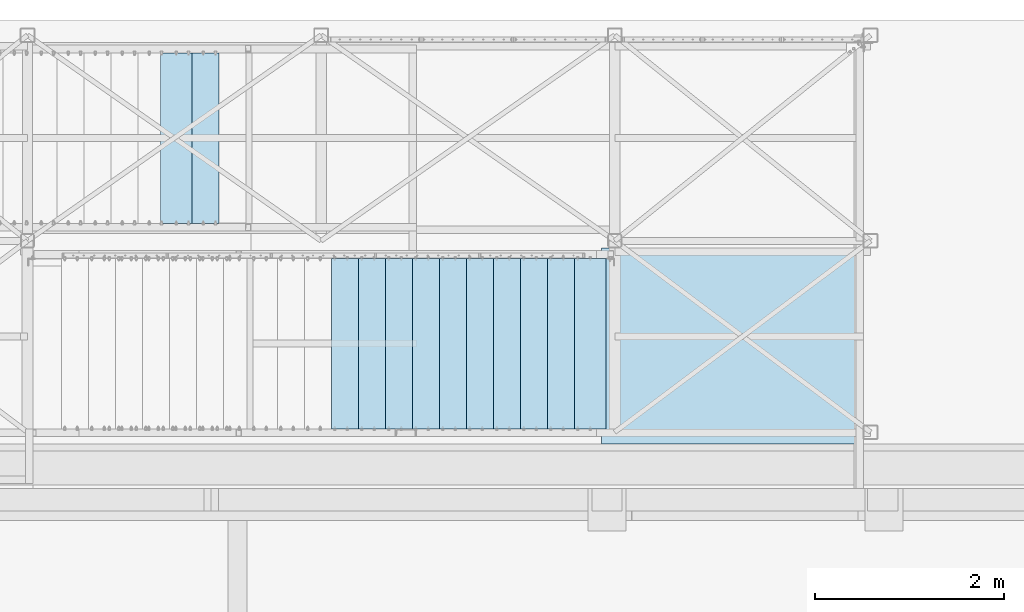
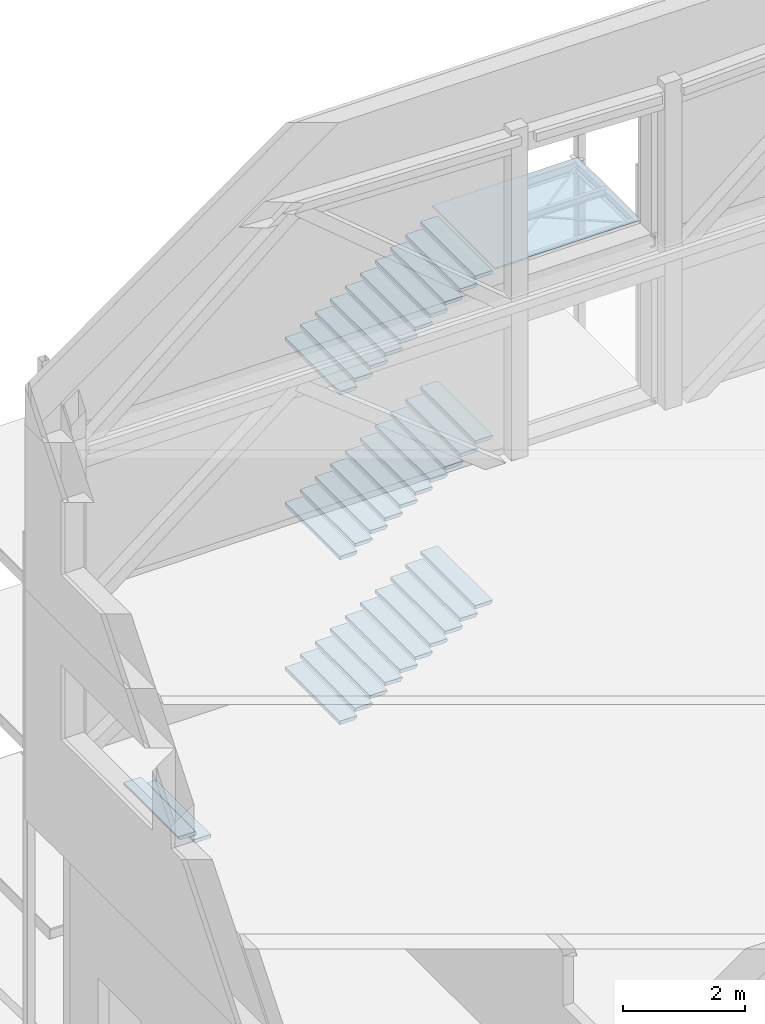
# One storey, part 61 of 78: 33 plates, 33 elements without a shape of their own.
"""IFC2X3 building model written with IfcOpenShell, lengths in millimetres."""

from ifc_helpers import new_model, si_unit, frame, origin_with_axes, place, context, subcontext, project, spatial, polyline, outline, extrude, material, type_object, element, aggregate, save


model = new_model("IFC2X3")

# Units and contexts
model_context = context("Model", 3, precision=1e-05, world=origin_with_axes())
body_context = subcontext(model_context, "Body", "Model", "MODEL_VIEW")
ifc_project = project(units=[si_unit("LENGTHUNIT", "METRE", prefix="MILLI"), si_unit("AREAUNIT", "SQUARE_METRE"), si_unit("VOLUMEUNIT", "CUBIC_METRE"), si_unit("MASSUNIT", "GRAM", prefix="KILO"), si_unit("TIMEUNIT", "SECOND"), si_unit("PLANEANGLEUNIT", "RADIAN"), si_unit("SOLIDANGLEUNIT", "STERADIAN"), si_unit("THERMODYNAMICTEMPERATUREUNIT", "DEGREE_CELSIUS"), si_unit("LUMINOUSINTENSITYUNIT", "LUMEN")], contexts=[model_context])

# Site, building, storey
site_placement = place(None, origin_with_axes())
site = spatial("IfcSite", under=ifc_project, at=site_placement, Name="Site", CompositionType="ELEMENT")
building_placement = place(site_placement, origin_with_axes())
building = spatial("IfcBuilding", under=site, at=building_placement, Name="Undefined", CompositionType="ELEMENT")
storey_placement = place(building_placement, origin_with_axes())
storey = spatial("IfcBuildingStorey", under=building, at=storey_placement, Name="Undefined", CompositionType="ELEMENT", Elevation=0.0)

# Assembly, plate
assembly_1_placement = place(storey_placement, origin_with_axes())
assembly_1 = element("IfcElementAssembly", 1, at=assembly_1_placement, inside=storey, Name="MARCHE", AssemblyPlace="NOTDEFINED", PredefinedType="RIGID_FRAME")
ifc_material = material(Name="STEEL/S235JR")
plate_type_1 = type_object("IfcPlateType", Name="PL1800*70", PredefinedType="NOTDEFINED")
plate_1_placement = place(assembly_1_placement, frame((1403.57000005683, 29663.0000000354, 153242.539999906), z_axis=(0.0, -1.0, 0.0), x_axis=(-1.0, 0.0, 0.0)))
plate_1 = element("IfcPlate", 2, at=plate_1_placement, type_object=plate_type_1, material=ifc_material, Name="MARCHE", ObjectType="PL1800*70", context=body_context, shape_type="SweptSolid", body=[
    extrude(outline(polyline([(0.0, 0.0), (330.0, 0.0), (330.0, 70.0), (40.0, 70.0), (0.0, 40.0), (0.0, 0.0)])), frame((0.0, 0.0, -900.0), z_axis=(0.0, 0.0, 1.0), x_axis=(1.0, 0.0, 0.0)), (0.0, 0.0, 1.0), 1800.0),
])
aggregate(assembly_1, [plate_1])

assembly_2_placement = place(storey_placement, origin_with_axes())
assembly_2 = element("IfcElementAssembly", 3, at=assembly_2_placement, inside=storey, Name="MARCHE", AssemblyPlace="NOTDEFINED", PredefinedType="RIGID_FRAME")
plate_2_placement = place(assembly_2_placement, frame((1118.57000005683, 29663.0000000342, 153085.039999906), z_axis=(0.0, -1.0, 0.0), x_axis=(-1.0, 0.0, 0.0)))
plate_2 = element("IfcPlate", 4, at=plate_2_placement, type_object=plate_type_1, material=ifc_material, Name="MARCHE", ObjectType="PL1800*70", context=body_context, shape_type="SweptSolid", body=[
    extrude(outline(polyline([(0.0, 0.0), (330.0, 0.0), (330.0, 70.0), (40.0, 70.0), (0.0, 40.0), (0.0, 0.0)])), frame((0.0, 0.0, -900.0), z_axis=(0.0, 0.0, 1.0), x_axis=(1.0, 0.0, 0.0)), (0.0, 0.0, 1.0), 1800.0),
])
aggregate(assembly_2, [plate_2])

assembly_3_placement = place(storey_placement, origin_with_axes())
assembly_3 = element("IfcElementAssembly", 5, at=assembly_3_placement, inside=storey, Name="MARCHE", AssemblyPlace="NOTDEFINED", PredefinedType="RIGID_FRAME")
plate_3_placement = place(assembly_3_placement, frame((833.570000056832, 29663.0000000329, 152927.539999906), z_axis=(0.0, -1.0, 0.0), x_axis=(-1.0, 0.0, 0.0)))
plate_3 = element("IfcPlate", 6, at=plate_3_placement, type_object=plate_type_1, material=ifc_material, Name="MARCHE", ObjectType="PL1800*70", context=body_context, shape_type="SweptSolid", body=[
    extrude(outline(polyline([(0.0, 0.0), (330.0, 0.0), (330.0, 70.0), (40.0, 70.0), (0.0, 40.0), (0.0, 0.0)])), frame((0.0, 0.0, -900.0), z_axis=(0.0, 0.0, 1.0), x_axis=(1.0, 0.0, 0.0)), (0.0, 0.0, 1.0), 1800.0),
])
aggregate(assembly_3, [plate_3])

assembly_4_placement = place(storey_placement, origin_with_axes())
assembly_4 = element("IfcElementAssembly", 7, at=assembly_4_placement, inside=storey, Name="MARCHE", AssemblyPlace="NOTDEFINED", PredefinedType="RIGID_FRAME")
plate_4_placement = place(assembly_4_placement, frame((548.570000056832, 29663.0000000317, 152770.039999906), z_axis=(0.0, -1.0, 0.0), x_axis=(-1.0, 0.0, 0.0)))
plate_4 = element("IfcPlate", 8, at=plate_4_placement, type_object=plate_type_1, material=ifc_material, Name="MARCHE", ObjectType="PL1800*70", context=body_context, shape_type="SweptSolid", body=[
    extrude(outline(polyline([(0.0, 0.0), (330.0, 0.0), (330.0, 70.0), (40.0, 70.0), (0.0, 40.0), (0.0, 0.0)])), frame((0.0, 0.0, -900.0), z_axis=(0.0, 0.0, 1.0), x_axis=(1.0, 0.0, 0.0)), (0.0, 0.0, 1.0), 1800.0),
])
aggregate(assembly_4, [plate_4])

assembly_5_placement = place(storey_placement, origin_with_axes())
assembly_5 = element("IfcElementAssembly", 9, at=assembly_5_placement, inside=storey, Name="MARCHE", AssemblyPlace="NOTDEFINED", PredefinedType="RIGID_FRAME")
plate_5_placement = place(assembly_5_placement, frame((263.570000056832, 29663.0000000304, 152612.539999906), z_axis=(0.0, -1.0, 0.0), x_axis=(-1.0, 0.0, 0.0)))
plate_5 = element("IfcPlate", 10, at=plate_5_placement, type_object=plate_type_1, material=ifc_material, Name="MARCHE", ObjectType="PL1800*70", context=body_context, shape_type="SweptSolid", body=[
    extrude(outline(polyline([(0.0, 0.0), (330.0, 0.0), (330.0, 70.0), (40.0, 70.0), (0.0, 40.0), (0.0, 0.0)])), frame((0.0, 0.0, -900.0), z_axis=(0.0, 0.0, 1.0), x_axis=(1.0, 0.0, 0.0)), (0.0, 0.0, 1.0), 1800.0),
])
aggregate(assembly_5, [plate_5])

assembly_6_placement = place(storey_placement, origin_with_axes())
assembly_6 = element("IfcElementAssembly", 11, at=assembly_6_placement, inside=storey, Name="MARCHE", AssemblyPlace="NOTDEFINED", PredefinedType="RIGID_FRAME")
plate_6_placement = place(assembly_6_placement, frame((-21.4299999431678, 29663.0000000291, 152455.039999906), z_axis=(0.0, -1.0, 0.0), x_axis=(-1.0, 0.0, 0.0)))
plate_6 = element("IfcPlate", 12, at=plate_6_placement, type_object=plate_type_1, material=ifc_material, Name="MARCHE", ObjectType="PL1800*70", context=body_context, shape_type="SweptSolid", body=[
    extrude(outline(polyline([(0.0, 0.0), (330.0, 0.0), (330.0, 70.0), (40.0, 70.0), (0.0, 40.0), (0.0, 0.0)])), frame((0.0, 0.0, -900.0), z_axis=(0.0, 0.0, 1.0), x_axis=(1.0, 0.0, 0.0)), (0.0, 0.0, 1.0), 1800.0),
])
aggregate(assembly_6, [plate_6])

assembly_7_placement = place(storey_placement, origin_with_axes())
assembly_7 = element("IfcElementAssembly", 13, at=assembly_7_placement, inside=storey, Name="MARCHE", AssemblyPlace="NOTDEFINED", PredefinedType="RIGID_FRAME")
plate_7_placement = place(assembly_7_placement, frame((-306.429999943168, 29663.0000000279, 152297.539999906), z_axis=(0.0, -1.0, 0.0), x_axis=(-1.0, 0.0, 0.0)))
plate_7 = element("IfcPlate", 14, at=plate_7_placement, type_object=plate_type_1, material=ifc_material, Name="MARCHE", ObjectType="PL1800*70", context=body_context, shape_type="SweptSolid", body=[
    extrude(outline(polyline([(0.0, 0.0), (330.0, 0.0), (330.0, 70.0), (40.0, 70.0), (0.0, 40.0), (0.0, 0.0)])), frame((0.0, 0.0, -900.0), z_axis=(0.0, 0.0, 1.0), x_axis=(1.0, 0.0, 0.0)), (0.0, 0.0, 1.0), 1800.0),
])
aggregate(assembly_7, [plate_7])

assembly_8_placement = place(storey_placement, origin_with_axes())
assembly_8 = element("IfcElementAssembly", 15, at=assembly_8_placement, inside=storey, Name="MARCHE", AssemblyPlace="NOTDEFINED", PredefinedType="RIGID_FRAME")
plate_8_placement = place(assembly_8_placement, frame((-591.429999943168, 29663.0000000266, 152140.039999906), z_axis=(0.0, -1.0, 0.0), x_axis=(-1.0, 0.0, 0.0)))
plate_8 = element("IfcPlate", 16, at=plate_8_placement, type_object=plate_type_1, material=ifc_material, Name="MARCHE", ObjectType="PL1800*70", context=body_context, shape_type="SweptSolid", body=[
    extrude(outline(polyline([(0.0, 0.0), (330.0, 0.0), (330.0, 70.0), (40.0, 70.0), (0.0, 40.0), (0.0, 0.0)])), frame((0.0, 0.0, -900.0), z_axis=(0.0, 0.0, 1.0), x_axis=(1.0, 0.0, 0.0)), (0.0, 0.0, 1.0), 1800.0),
])
aggregate(assembly_8, [plate_8])

assembly_9_placement = place(storey_placement, origin_with_axes())
assembly_9 = element("IfcElementAssembly", 17, at=assembly_9_placement, inside=storey, Name="MARCHE", AssemblyPlace="NOTDEFINED", PredefinedType="RIGID_FRAME")
plate_9_placement = place(assembly_9_placement, frame((-876.429999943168, 29663.0000000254, 151982.539999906), z_axis=(0.0, -1.0, 0.0), x_axis=(-1.0, 0.0, 0.0)))
plate_9 = element("IfcPlate", 18, at=plate_9_placement, type_object=plate_type_1, material=ifc_material, Name="MARCHE", ObjectType="PL1800*70", context=body_context, shape_type="SweptSolid", body=[
    extrude(outline(polyline([(0.0, 0.0), (330.0, 0.0), (330.0, 70.0), (40.0, 70.0), (0.0, 40.0), (0.0, 0.0)])), frame((0.0, 0.0, -900.0), z_axis=(0.0, 0.0, 1.0), x_axis=(1.0, 0.0, 0.0)), (0.0, 0.0, 1.0), 1800.0),
])
aggregate(assembly_9, [plate_9])

assembly_10_placement = place(storey_placement, origin_with_axes())
assembly_10 = element("IfcElementAssembly", 19, at=assembly_10_placement, inside=storey, Name="MARCHE", AssemblyPlace="NOTDEFINED", PredefinedType="RIGID_FRAME")
plate_10_placement = place(assembly_10_placement, frame((-1161.42999994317, 29663.0000000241, 151825.039999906), z_axis=(0.0, -1.0, 0.0), x_axis=(-1.0, 0.0, 0.0)))
plate_10 = element("IfcPlate", 20, at=plate_10_placement, type_object=plate_type_1, material=ifc_material, Name="MARCHE", ObjectType="PL1800*70", context=body_context, shape_type="SweptSolid", body=[
    extrude(outline(polyline([(0.0, 0.0), (330.0, 0.0), (330.0, 70.0), (40.0, 70.0), (0.0, 40.0), (0.0, 0.0)])), frame((0.0, 0.0, -900.0), z_axis=(0.0, 0.0, 1.0), x_axis=(1.0, 0.0, 0.0)), (0.0, 0.0, 1.0), 1800.0),
])
aggregate(assembly_10, [plate_10])

assembly_11_placement = place(storey_placement, origin_with_axes())
assembly_11 = element("IfcElementAssembly", 21, at=assembly_11_placement, inside=storey, Name="MARCHE", AssemblyPlace="NOTDEFINED", PredefinedType="RIGID_FRAME")
plate_11_placement = place(assembly_11_placement, frame((-3296.43000008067, 31832.9999999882, 148824.040000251), z_axis=(0.0, 1.0, 0.0), x_axis=(1.0, 0.0, 0.0)))
plate_11 = element("IfcPlate", 22, at=plate_11_placement, type_object=plate_type_1, material=ifc_material, Name="MARCHE", ObjectType="PL1800*70", context=body_context, shape_type="SweptSolid", body=[
    extrude(outline(polyline([(0.0, 0.0), (330.0, 0.0), (330.0, 70.0), (40.0, 70.0), (0.0, 40.0), (0.0, 0.0)])), frame((0.0, 0.0, -900.0), z_axis=(0.0, 0.0, 1.0), x_axis=(1.0, 0.0, 0.0)), (0.0, 0.0, 1.0), 1800.0),
])
aggregate(assembly_11, [plate_11])

assembly_12_placement = place(storey_placement, origin_with_axes())
assembly_12 = element("IfcElementAssembly", 23, at=assembly_12_placement, inside=storey, Name="MARCHE", AssemblyPlace="NOTDEFINED", PredefinedType="RIGID_FRAME")
plate_12_placement = place(assembly_12_placement, frame((-3011.43000007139, 31832.9999999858, 148664.540000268), z_axis=(0.0, 1.0, 0.0), x_axis=(1.0, 0.0, 0.0)))
plate_12 = element("IfcPlate", 24, at=plate_12_placement, type_object=plate_type_1, material=ifc_material, Name="MARCHE", ObjectType="PL1800*70", context=body_context, shape_type="SweptSolid", body=[
    extrude(outline(polyline([(0.0, 0.0), (330.0, 0.0), (330.0, 70.0), (40.0, 70.0), (0.0, 40.0), (0.0, 0.0)])), frame((0.0, 0.0, -900.0), z_axis=(0.0, 0.0, 1.0), x_axis=(1.0, 0.0, 0.0)), (0.0, 0.0, 1.0), 1800.0),
])
aggregate(assembly_12, [plate_12])

assembly_13_placement = place(storey_placement, origin_with_axes())
assembly_13 = element("IfcElementAssembly", 25, at=assembly_13_placement, inside=storey, Name="MARCHE", AssemblyPlace="NOTDEFINED", PredefinedType="RIGID_FRAME")
plate_13_placement = place(assembly_13_placement, frame((1403.57000005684, 29663.0000000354, 156542.539999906), z_axis=(0.0, -1.0, 0.0), x_axis=(-1.0, 0.0, 0.0)))
plate_13 = element("IfcPlate", 26, at=plate_13_placement, type_object=plate_type_1, material=ifc_material, Name="MARCHE", ObjectType="PL1800*70", context=body_context, shape_type="SweptSolid", body=[
    extrude(outline(polyline([(0.0, 0.0), (330.0, 0.0), (330.0, 70.0), (40.0, 70.0), (0.0, 40.0), (0.0, 0.0)])), frame((0.0, 0.0, -900.0), z_axis=(0.0, 0.0, 1.0), x_axis=(1.0, 0.0, 0.0)), (0.0, 0.0, 1.0), 1800.0),
])
aggregate(assembly_13, [plate_13])

assembly_14_placement = place(storey_placement, origin_with_axes())
assembly_14 = element("IfcElementAssembly", 27, at=assembly_14_placement, inside=storey, Name="MARCHE", AssemblyPlace="NOTDEFINED", PredefinedType="RIGID_FRAME")
plate_14_placement = place(assembly_14_placement, frame((1118.57000005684, 29663.0000000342, 156385.039999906), z_axis=(0.0, -1.0, 0.0), x_axis=(-1.0, 0.0, 0.0)))
plate_14 = element("IfcPlate", 28, at=plate_14_placement, type_object=plate_type_1, material=ifc_material, Name="MARCHE", ObjectType="PL1800*70", context=body_context, shape_type="SweptSolid", body=[
    extrude(outline(polyline([(0.0, 0.0), (330.0, 0.0), (330.0, 70.0), (40.0, 70.0), (0.0, 40.0), (0.0, 0.0)])), frame((0.0, 0.0, -900.0), z_axis=(0.0, 0.0, 1.0), x_axis=(1.0, 0.0, 0.0)), (0.0, 0.0, 1.0), 1800.0),
])
aggregate(assembly_14, [plate_14])

assembly_15_placement = place(storey_placement, origin_with_axes())
assembly_15 = element("IfcElementAssembly", 29, at=assembly_15_placement, inside=storey, Name="MARCHE", AssemblyPlace="NOTDEFINED", PredefinedType="RIGID_FRAME")
plate_15_placement = place(assembly_15_placement, frame((833.570000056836, 29663.0000000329, 156227.539999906), z_axis=(0.0, -1.0, 0.0), x_axis=(-1.0, 0.0, 0.0)))
plate_15 = element("IfcPlate", 30, at=plate_15_placement, type_object=plate_type_1, material=ifc_material, Name="MARCHE", ObjectType="PL1800*70", context=body_context, shape_type="SweptSolid", body=[
    extrude(outline(polyline([(0.0, 0.0), (330.0, 0.0), (330.0, 70.0), (40.0, 70.0), (0.0, 40.0), (0.0, 0.0)])), frame((0.0, 0.0, -900.0), z_axis=(0.0, 0.0, 1.0), x_axis=(1.0, 0.0, 0.0)), (0.0, 0.0, 1.0), 1800.0),
])
aggregate(assembly_15, [plate_15])

assembly_16_placement = place(storey_placement, origin_with_axes())
assembly_16 = element("IfcElementAssembly", 31, at=assembly_16_placement, inside=storey, Name="MARCHE", AssemblyPlace="NOTDEFINED", PredefinedType="RIGID_FRAME")
plate_16_placement = place(assembly_16_placement, frame((548.570000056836, 29663.0000000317, 156070.039999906), z_axis=(0.0, -1.0, 0.0), x_axis=(-1.0, 0.0, 0.0)))
plate_16 = element("IfcPlate", 32, at=plate_16_placement, type_object=plate_type_1, material=ifc_material, Name="MARCHE", ObjectType="PL1800*70", context=body_context, shape_type="SweptSolid", body=[
    extrude(outline(polyline([(0.0, 0.0), (330.0, 0.0), (330.0, 70.0), (40.0, 70.0), (0.0, 40.0), (0.0, 0.0)])), frame((0.0, 0.0, -900.0), z_axis=(0.0, 0.0, 1.0), x_axis=(1.0, 0.0, 0.0)), (0.0, 0.0, 1.0), 1800.0),
])
aggregate(assembly_16, [plate_16])

assembly_17_placement = place(storey_placement, origin_with_axes())
assembly_17 = element("IfcElementAssembly", 33, at=assembly_17_placement, inside=storey, Name="MARCHE", AssemblyPlace="NOTDEFINED", PredefinedType="RIGID_FRAME")
plate_17_placement = place(assembly_17_placement, frame((263.570000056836, 29663.0000000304, 155912.539999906), z_axis=(0.0, -1.0, 0.0), x_axis=(-1.0, 0.0, 0.0)))
plate_17 = element("IfcPlate", 34, at=plate_17_placement, type_object=plate_type_1, material=ifc_material, Name="MARCHE", ObjectType="PL1800*70", context=body_context, shape_type="SweptSolid", body=[
    extrude(outline(polyline([(0.0, 0.0), (330.0, 0.0), (330.0, 70.0), (40.0, 70.0), (0.0, 40.0), (0.0, 0.0)])), frame((0.0, 0.0, -900.0), z_axis=(0.0, 0.0, 1.0), x_axis=(1.0, 0.0, 0.0)), (0.0, 0.0, 1.0), 1800.0),
])
aggregate(assembly_17, [plate_17])

assembly_18_placement = place(storey_placement, origin_with_axes())
assembly_18 = element("IfcElementAssembly", 35, at=assembly_18_placement, inside=storey, Name="MARCHE", AssemblyPlace="NOTDEFINED", PredefinedType="RIGID_FRAME")
plate_18_placement = place(assembly_18_placement, frame((-21.4299999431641, 29663.0000000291, 155755.039999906), z_axis=(0.0, -1.0, 0.0), x_axis=(-1.0, 0.0, 0.0)))
plate_18 = element("IfcPlate", 36, at=plate_18_placement, type_object=plate_type_1, material=ifc_material, Name="MARCHE", ObjectType="PL1800*70", context=body_context, shape_type="SweptSolid", body=[
    extrude(outline(polyline([(0.0, 0.0), (330.0, 0.0), (330.0, 70.0), (40.0, 70.0), (0.0, 40.0), (0.0, 0.0)])), frame((0.0, 0.0, -900.0), z_axis=(0.0, 0.0, 1.0), x_axis=(1.0, 0.0, 0.0)), (0.0, 0.0, 1.0), 1800.0),
])
aggregate(assembly_18, [plate_18])

assembly_19_placement = place(storey_placement, origin_with_axes())
assembly_19 = element("IfcElementAssembly", 37, at=assembly_19_placement, inside=storey, Name="MARCHE", AssemblyPlace="NOTDEFINED", PredefinedType="RIGID_FRAME")
plate_19_placement = place(assembly_19_placement, frame((-306.429999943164, 29663.0000000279, 155597.539999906), z_axis=(0.0, -1.0, 0.0), x_axis=(-1.0, 0.0, 0.0)))
plate_19 = element("IfcPlate", 38, at=plate_19_placement, type_object=plate_type_1, material=ifc_material, Name="MARCHE", ObjectType="PL1800*70", context=body_context, shape_type="SweptSolid", body=[
    extrude(outline(polyline([(0.0, 0.0), (330.0, 0.0), (330.0, 70.0), (40.0, 70.0), (0.0, 40.0), (0.0, 0.0)])), frame((0.0, 0.0, -900.0), z_axis=(0.0, 0.0, 1.0), x_axis=(1.0, 0.0, 0.0)), (0.0, 0.0, 1.0), 1800.0),
])
aggregate(assembly_19, [plate_19])

assembly_20_placement = place(storey_placement, origin_with_axes())
assembly_20 = element("IfcElementAssembly", 39, at=assembly_20_placement, inside=storey, Name="MARCHE", AssemblyPlace="NOTDEFINED", PredefinedType="RIGID_FRAME")
plate_20_placement = place(assembly_20_placement, frame((-591.429999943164, 29663.0000000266, 155440.039999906), z_axis=(0.0, -1.0, 0.0), x_axis=(-1.0, 0.0, 0.0)))
plate_20 = element("IfcPlate", 40, at=plate_20_placement, type_object=plate_type_1, material=ifc_material, Name="MARCHE", ObjectType="PL1800*70", context=body_context, shape_type="SweptSolid", body=[
    extrude(outline(polyline([(0.0, 0.0), (330.0, 0.0), (330.0, 70.0), (40.0, 70.0), (0.0, 40.0), (0.0, 0.0)])), frame((0.0, 0.0, -900.0), z_axis=(0.0, 0.0, 1.0), x_axis=(1.0, 0.0, 0.0)), (0.0, 0.0, 1.0), 1800.0),
])
aggregate(assembly_20, [plate_20])

assembly_21_placement = place(storey_placement, origin_with_axes())
assembly_21 = element("IfcElementAssembly", 41, at=assembly_21_placement, inside=storey, Name="MARCHE", AssemblyPlace="NOTDEFINED", PredefinedType="RIGID_FRAME")
plate_21_placement = place(assembly_21_placement, frame((-876.429999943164, 29663.0000000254, 155282.539999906), z_axis=(0.0, -1.0, 0.0), x_axis=(-1.0, 0.0, 0.0)))
plate_21 = element("IfcPlate", 42, at=plate_21_placement, type_object=plate_type_1, material=ifc_material, Name="MARCHE", ObjectType="PL1800*70", context=body_context, shape_type="SweptSolid", body=[
    extrude(outline(polyline([(0.0, 0.0), (330.0, 0.0), (330.0, 70.0), (40.0, 70.0), (0.0, 40.0), (0.0, 0.0)])), frame((0.0, 0.0, -900.0), z_axis=(0.0, 0.0, 1.0), x_axis=(1.0, 0.0, 0.0)), (0.0, 0.0, 1.0), 1800.0),
])
aggregate(assembly_21, [plate_21])

assembly_22_placement = place(storey_placement, origin_with_axes())
assembly_22 = element("IfcElementAssembly", 43, at=assembly_22_placement, inside=storey, Name="MARCHE", AssemblyPlace="NOTDEFINED", PredefinedType="RIGID_FRAME")
plate_22_placement = place(assembly_22_placement, frame((-1161.42999994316, 29663.0000000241, 155125.039999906), z_axis=(0.0, -1.0, 0.0), x_axis=(-1.0, 0.0, 0.0)))
plate_22 = element("IfcPlate", 44, at=plate_22_placement, type_object=plate_type_1, material=ifc_material, Name="MARCHE", ObjectType="PL1800*70", context=body_context, shape_type="SweptSolid", body=[
    extrude(outline(polyline([(0.0, 0.0), (330.0, 0.0), (330.0, 70.0), (40.0, 70.0), (0.0, 40.0), (0.0, 0.0)])), frame((0.0, 0.0, -900.0), z_axis=(0.0, 0.0, 1.0), x_axis=(1.0, 0.0, 0.0)), (0.0, 0.0, 1.0), 1800.0),
])
aggregate(assembly_22, [plate_22])

assembly_23_placement = place(storey_placement, origin_with_axes())
assembly_23 = element("IfcElementAssembly", 45, at=assembly_23_placement, inside=storey, Name="MARCHE", AssemblyPlace="NOTDEFINED", PredefinedType="RIGID_FRAME")
plate_23_placement = place(assembly_23_placement, frame((1403.57000005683, 29663.0000000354, 159842.539999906), z_axis=(0.0, -1.0, 0.0), x_axis=(-1.0, 0.0, 0.0)))
plate_23 = element("IfcPlate", 46, at=plate_23_placement, type_object=plate_type_1, material=ifc_material, Name="MARCHE", ObjectType="PL1800*70", context=body_context, shape_type="SweptSolid", body=[
    extrude(outline(polyline([(0.0, 0.0), (330.0, 0.0), (330.0, 70.0), (40.0, 70.0), (0.0, 40.0), (0.0, 0.0)])), frame((0.0, 0.0, -900.0), z_axis=(0.0, 0.0, 1.0), x_axis=(1.0, 0.0, 0.0)), (0.0, 0.0, 1.0), 1800.0),
])
aggregate(assembly_23, [plate_23])

assembly_24_placement = place(storey_placement, origin_with_axes())
assembly_24 = element("IfcElementAssembly", 47, at=assembly_24_placement, inside=storey, Name="MARCHE", AssemblyPlace="NOTDEFINED", PredefinedType="RIGID_FRAME")
plate_24_placement = place(assembly_24_placement, frame((1118.57000005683, 29663.0000000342, 159685.039999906), z_axis=(0.0, -1.0, 0.0), x_axis=(-1.0, 0.0, 0.0)))
plate_24 = element("IfcPlate", 48, at=plate_24_placement, type_object=plate_type_1, material=ifc_material, Name="MARCHE", ObjectType="PL1800*70", context=body_context, shape_type="SweptSolid", body=[
    extrude(outline(polyline([(0.0, 0.0), (330.0, 0.0), (330.0, 70.0), (40.0, 70.0), (0.0, 40.0), (0.0, 0.0)])), frame((0.0, 0.0, -900.0), z_axis=(0.0, 0.0, 1.0), x_axis=(1.0, 0.0, 0.0)), (0.0, 0.0, 1.0), 1800.0),
])
aggregate(assembly_24, [plate_24])

assembly_25_placement = place(storey_placement, origin_with_axes())
assembly_25 = element("IfcElementAssembly", 49, at=assembly_25_placement, inside=storey, Name="MARCHE", AssemblyPlace="NOTDEFINED", PredefinedType="RIGID_FRAME")
plate_25_placement = place(assembly_25_placement, frame((833.570000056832, 29663.0000000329, 159527.539999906), z_axis=(0.0, -1.0, 0.0), x_axis=(-1.0, 0.0, 0.0)))
plate_25 = element("IfcPlate", 50, at=plate_25_placement, type_object=plate_type_1, material=ifc_material, Name="MARCHE", ObjectType="PL1800*70", context=body_context, shape_type="SweptSolid", body=[
    extrude(outline(polyline([(0.0, 0.0), (330.0, 0.0), (330.0, 70.0), (40.0, 70.0), (0.0, 40.0), (0.0, 0.0)])), frame((0.0, 0.0, -900.0), z_axis=(0.0, 0.0, 1.0), x_axis=(1.0, 0.0, 0.0)), (0.0, 0.0, 1.0), 1800.0),
])
aggregate(assembly_25, [plate_25])

assembly_26_placement = place(storey_placement, origin_with_axes())
assembly_26 = element("IfcElementAssembly", 51, at=assembly_26_placement, inside=storey, Name="MARCHE", AssemblyPlace="NOTDEFINED", PredefinedType="RIGID_FRAME")
plate_26_placement = place(assembly_26_placement, frame((548.570000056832, 29663.0000000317, 159370.039999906), z_axis=(0.0, -1.0, 0.0), x_axis=(-1.0, 0.0, 0.0)))
plate_26 = element("IfcPlate", 52, at=plate_26_placement, type_object=plate_type_1, material=ifc_material, Name="MARCHE", ObjectType="PL1800*70", context=body_context, shape_type="SweptSolid", body=[
    extrude(outline(polyline([(0.0, 0.0), (330.0, 0.0), (330.0, 70.0), (40.0, 70.0), (0.0, 40.0), (0.0, 0.0)])), frame((0.0, 0.0, -900.0), z_axis=(0.0, 0.0, 1.0), x_axis=(1.0, 0.0, 0.0)), (0.0, 0.0, 1.0), 1800.0),
])
aggregate(assembly_26, [plate_26])

assembly_27_placement = place(storey_placement, origin_with_axes())
assembly_27 = element("IfcElementAssembly", 53, at=assembly_27_placement, inside=storey, Name="MARCHE", AssemblyPlace="NOTDEFINED", PredefinedType="RIGID_FRAME")
plate_27_placement = place(assembly_27_placement, frame((263.570000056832, 29663.0000000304, 159212.539999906), z_axis=(0.0, -1.0, 0.0), x_axis=(-1.0, 0.0, 0.0)))
plate_27 = element("IfcPlate", 54, at=plate_27_placement, type_object=plate_type_1, material=ifc_material, Name="MARCHE", ObjectType="PL1800*70", context=body_context, shape_type="SweptSolid", body=[
    extrude(outline(polyline([(0.0, 0.0), (330.0, 0.0), (330.0, 70.0), (40.0, 70.0), (0.0, 40.0), (0.0, 0.0)])), frame((0.0, 0.0, -900.0), z_axis=(0.0, 0.0, 1.0), x_axis=(1.0, 0.0, 0.0)), (0.0, 0.0, 1.0), 1800.0),
])
aggregate(assembly_27, [plate_27])

assembly_28_placement = place(storey_placement, origin_with_axes())
assembly_28 = element("IfcElementAssembly", 55, at=assembly_28_placement, inside=storey, Name="MARCHE", AssemblyPlace="NOTDEFINED", PredefinedType="RIGID_FRAME")
plate_28_placement = place(assembly_28_placement, frame((-21.4299999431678, 29663.0000000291, 159055.039999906), z_axis=(0.0, -1.0, 0.0), x_axis=(-1.0, 0.0, 0.0)))
plate_28 = element("IfcPlate", 56, at=plate_28_placement, type_object=plate_type_1, material=ifc_material, Name="MARCHE", ObjectType="PL1800*70", context=body_context, shape_type="SweptSolid", body=[
    extrude(outline(polyline([(0.0, 0.0), (330.0, 0.0), (330.0, 70.0), (40.0, 70.0), (0.0, 40.0), (0.0, 0.0)])), frame((0.0, 0.0, -900.0), z_axis=(0.0, 0.0, 1.0), x_axis=(1.0, 0.0, 0.0)), (0.0, 0.0, 1.0), 1800.0),
])
aggregate(assembly_28, [plate_28])

assembly_29_placement = place(storey_placement, origin_with_axes())
assembly_29 = element("IfcElementAssembly", 57, at=assembly_29_placement, inside=storey, Name="MARCHE", AssemblyPlace="NOTDEFINED", PredefinedType="RIGID_FRAME")
plate_29_placement = place(assembly_29_placement, frame((-306.429999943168, 29663.0000000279, 158897.539999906), z_axis=(0.0, -1.0, 0.0), x_axis=(-1.0, 0.0, 0.0)))
plate_29 = element("IfcPlate", 58, at=plate_29_placement, type_object=plate_type_1, material=ifc_material, Name="MARCHE", ObjectType="PL1800*70", context=body_context, shape_type="SweptSolid", body=[
    extrude(outline(polyline([(0.0, 0.0), (330.0, 0.0), (330.0, 70.0), (40.0, 70.0), (0.0, 40.0), (0.0, 0.0)])), frame((0.0, 0.0, -900.0), z_axis=(0.0, 0.0, 1.0), x_axis=(1.0, 0.0, 0.0)), (0.0, 0.0, 1.0), 1800.0),
])
aggregate(assembly_29, [plate_29])

assembly_30_placement = place(storey_placement, origin_with_axes())
assembly_30 = element("IfcElementAssembly", 59, at=assembly_30_placement, inside=storey, Name="MARCHE", AssemblyPlace="NOTDEFINED", PredefinedType="RIGID_FRAME")
plate_30_placement = place(assembly_30_placement, frame((-591.429999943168, 29663.0000000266, 158740.039999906), z_axis=(0.0, -1.0, 0.0), x_axis=(-1.0, 0.0, 0.0)))
plate_30 = element("IfcPlate", 60, at=plate_30_placement, type_object=plate_type_1, material=ifc_material, Name="MARCHE", ObjectType="PL1800*70", context=body_context, shape_type="SweptSolid", body=[
    extrude(outline(polyline([(0.0, 0.0), (330.0, 0.0), (330.0, 70.0), (40.0, 70.0), (0.0, 40.0), (0.0, 0.0)])), frame((0.0, 0.0, -900.0), z_axis=(0.0, 0.0, 1.0), x_axis=(1.0, 0.0, 0.0)), (0.0, 0.0, 1.0), 1800.0),
])
aggregate(assembly_30, [plate_30])

assembly_31_placement = place(storey_placement, origin_with_axes())
assembly_31 = element("IfcElementAssembly", 61, at=assembly_31_placement, inside=storey, Name="MARCHE", AssemblyPlace="NOTDEFINED", PredefinedType="RIGID_FRAME")
plate_31_placement = place(assembly_31_placement, frame((-876.429999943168, 29663.0000000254, 158582.539999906), z_axis=(0.0, -1.0, 0.0), x_axis=(-1.0, 0.0, 0.0)))
plate_31 = element("IfcPlate", 62, at=plate_31_placement, type_object=plate_type_1, material=ifc_material, Name="MARCHE", ObjectType="PL1800*70", context=body_context, shape_type="SweptSolid", body=[
    extrude(outline(polyline([(0.0, 0.0), (330.0, 0.0), (330.0, 70.0), (40.0, 70.0), (0.0, 40.0), (0.0, 0.0)])), frame((0.0, 0.0, -900.0), z_axis=(0.0, 0.0, 1.0), x_axis=(1.0, 0.0, 0.0)), (0.0, 0.0, 1.0), 1800.0),
])
aggregate(assembly_31, [plate_31])

assembly_32_placement = place(storey_placement, origin_with_axes())
assembly_32 = element("IfcElementAssembly", 63, at=assembly_32_placement, inside=storey, Name="MARCHE", AssemblyPlace="NOTDEFINED", PredefinedType="RIGID_FRAME")
plate_32_placement = place(assembly_32_placement, frame((-1161.42999994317, 29663.0000000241, 158425.039999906), z_axis=(0.0, -1.0, 0.0), x_axis=(-1.0, 0.0, 0.0)))
plate_32 = element("IfcPlate", 64, at=plate_32_placement, type_object=plate_type_1, material=ifc_material, Name="MARCHE", ObjectType="PL1800*70", context=body_context, shape_type="SweptSolid", body=[
    extrude(outline(polyline([(0.0, 0.0), (330.0, 0.0), (330.0, 70.0), (40.0, 70.0), (0.0, 40.0), (0.0, 0.0)])), frame((0.0, 0.0, -900.0), z_axis=(0.0, 0.0, 1.0), x_axis=(1.0, 0.0, 0.0)), (0.0, 0.0, 1.0), 1800.0),
])
aggregate(assembly_32, [plate_32])

assembly_33_placement = place(storey_placement, origin_with_axes())
assembly_33 = element("IfcElementAssembly", 65, at=assembly_33_placement, inside=storey, AssemblyPlace="NOTDEFINED", PredefinedType="RIGID_FRAME")
plate_type_2 = type_object("IfcPlateType", Name="PL30*2070", PredefinedType="NOTDEFINED")
plate_33_placement = place(assembly_33_placement, frame((4123.57000000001, 30673.0, 159985.04), z_axis=(0.0, 0.0, 1.0), x_axis=(-1.0, 0.0, 0.0)))
plate_33 = element("IfcPlate", 66, at=plate_33_placement, type_object=plate_type_2, material=ifc_material, Name="CAILLEBOTIS", ObjectType="PL30*2070", context=body_context, shape_type="SweptSolid", body=[
    extrude(outline(polyline([(0.0, 0.0), (2765.00000000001, 0.0), (2764.99999999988, 2069.99999999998), (7.27595761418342e-12, 2069.99999999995), (0.0, 0.0)])), frame((0.0, 0.0, -15.0), z_axis=(0.0, 0.0, 1.0), x_axis=(1.0, 0.0, 0.0)), (0.0, 0.0, 1.0), 30.0),
])
aggregate(assembly_33, [plate_33])

save(model, "model.ifc")
